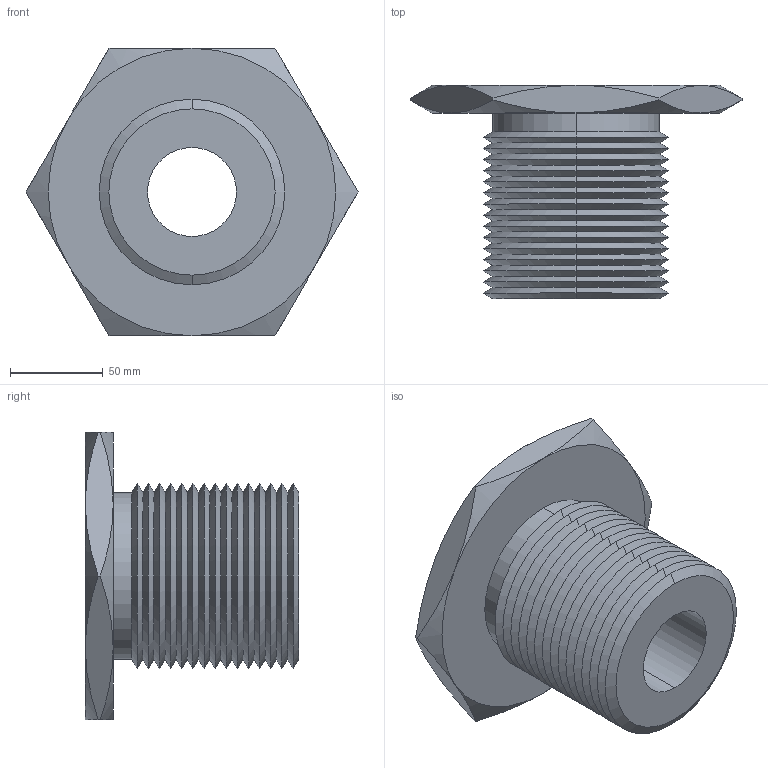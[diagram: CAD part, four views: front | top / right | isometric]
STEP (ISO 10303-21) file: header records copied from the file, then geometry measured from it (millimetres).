
FILE_DESCRIPTION (( 'STEP AP203' ), '1' );
FILE_NAME ('63302.W0100_M48x4.step', '2013-12-08T11:30:40', ( 'User' ), ( '' ), 'SwSTEP 2.0', 'SolidWorks 2009', '' );
FILE_SCHEMA (( 'CONFIG_CONTROL_DESIGN' ));
Length unit declared in the file: millimetre
Products named in the file (1): 63302.W0100_M48x4
Bounding box: 178.98 x 115 x 155 mm (x, y, z)
Volume: 793645.7 mm3; surface area: 117531.6 mm2
Topology: 1 solids, 1 shells, 87 faces, 178 edges, 94 vertices
Faces by surface type: cone 74, plane 9, cylinder 4
Entity records: 2479 total; most frequent: CARTESIAN_POINT 584, DIRECTION 412, ORIENTED_EDGE 356, EDGE_CURVE 178, AXIS2_PLACEMENT_3D 170, VERTEX_POINT 94, EDGE_LOOP 90, ADVANCED_FACE 87
